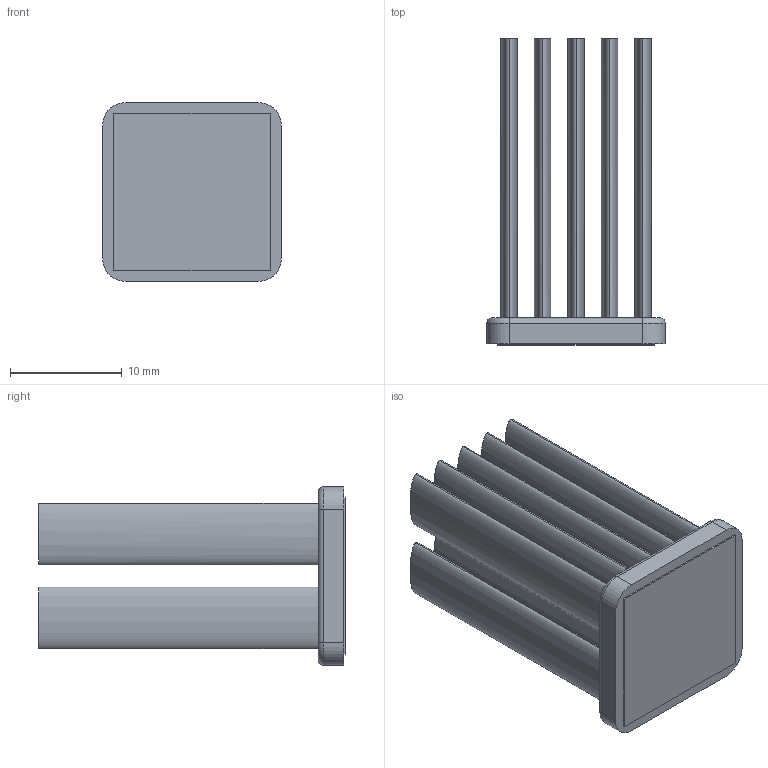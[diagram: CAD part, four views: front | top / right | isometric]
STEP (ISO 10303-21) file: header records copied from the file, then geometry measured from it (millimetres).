
FILE_DESCRIPTION (( 'STEP AP214' ), '1' );
FILE_NAME ('INM16001-27W-2.3.STEP', '2023-03-29T23:22:00', ( '' ), ( '' ), 'SwSTEP 2.0', 'SolidWorks 2020', '' );
FILE_SCHEMA (( 'AUTOMOTIVE_DESIGN' ));
Length unit declared in the file: millimetre
Products named in the file (1): INM16001-27W-2.3
Bounding box: 16 x 27.43 x 16 mm (x, y, z)
Volume: 2222.5 mm3; surface area: 4008.5 mm2
Topology: 2 solids, 2 shells, 54 faces, 112 edges, 72 vertices
Faces by surface type: plane 22, bspline 20, cylinder 8, torus 4
Entity records: 2109 total; most frequent: CARTESIAN_POINT 499, ORIENTED_EDGE 224, DIRECTION 162, EDGE_CURVE 112, VERTEX_POINT 72, EDGE_LOOP 64, UNCERTAINTY_MEASURE_WITH_UNIT 58, SURFACE_STYLE_USAGE 57
